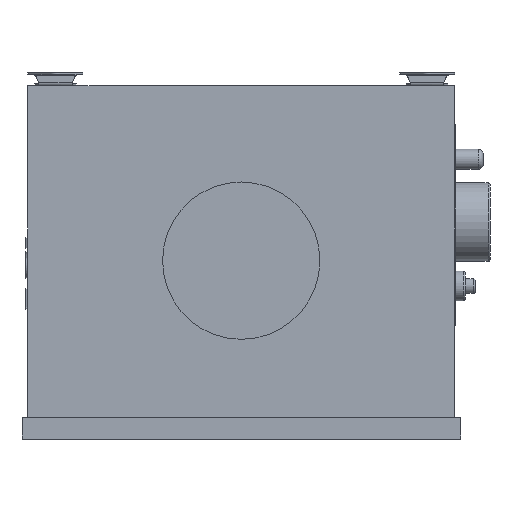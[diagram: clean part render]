
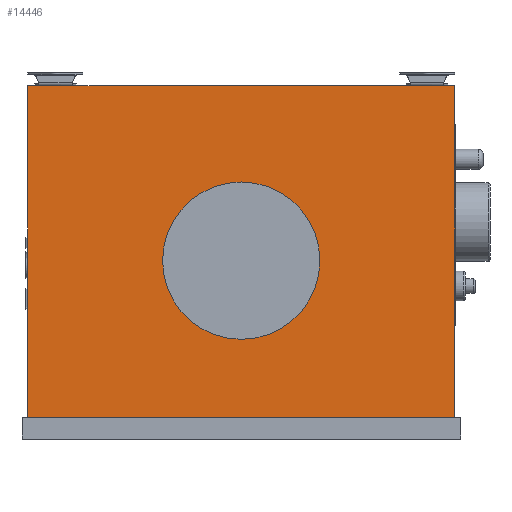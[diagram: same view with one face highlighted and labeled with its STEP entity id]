
A CAD part, front view. The second image highlights one B-rep face of the part: STEP entity #14446.
In plain terms, the highlighted planar face has unit normal (0, -1, 0).
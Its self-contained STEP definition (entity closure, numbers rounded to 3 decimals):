
#174=CIRCLE('',#15014,80.);
#318=FACE_BOUND('',#2265,.T.);
#1445=FACE_OUTER_BOUND('',#2264,.T.);
#2264=EDGE_LOOP('',(#13090,#13091,#13092,#13093));
#2265=EDGE_LOOP('',(#13094));
#3946=LINE('',#25575,#5162);
#4209=LINE('',#30355,#5425);
#4210=LINE('',#30357,#5426);
#4211=LINE('',#30358,#5427);
#5162=VECTOR('',#16430,10.);
#5425=VECTOR('',#17341,10.);
#5426=VECTOR('',#17344,10.);
#5427=VECTOR('',#17345,10.);
#6530=VERTEX_POINT('',#25571);
#6532=VERTEX_POINT('',#25574);
#6820=VERTEX_POINT('',#30326);
#6828=VERTEX_POINT('',#30351);
#6829=VERTEX_POINT('',#30353);
#8474=EDGE_CURVE('',#6532,#6530,#3946,.T.);
#8917=EDGE_CURVE('',#6820,#6820,#174,.T.);
#8930=EDGE_CURVE('',#6828,#6829,#4209,.T.);
#8931=EDGE_CURVE('',#6828,#6530,#4210,.T.);
#8932=EDGE_CURVE('',#6532,#6829,#4211,.T.);
#13090=ORIENTED_EDGE('',*,*,#8931,.F.);
#13091=ORIENTED_EDGE('',*,*,#8930,.T.);
#13092=ORIENTED_EDGE('',*,*,#8932,.F.);
#13093=ORIENTED_EDGE('',*,*,#8474,.T.);
#13094=ORIENTED_EDGE('',*,*,#8917,.T.);
#13462=PLANE('',#15026);
#14446=ADVANCED_FACE('',(#1445,#318),#13462,.T.);
#15014=AXIS2_PLACEMENT_3D('',#30327,#17310,#17311);
#15026=AXIS2_PLACEMENT_3D('',#30356,#17342,#17343);
#16430=DIRECTION('',(0.,0.,-1.));
#17310=DIRECTION('center_axis',(0.,1.,0.));
#17311=DIRECTION('ref_axis',(1.,0.,0.));
#17341=DIRECTION('',(0.,0.,1.));
#17342=DIRECTION('center_axis',(0.,-1.,0.));
#17343=DIRECTION('ref_axis',(1.,0.,0.));
#17344=DIRECTION('',(-1.,0.,0.));
#17345=DIRECTION('',(1.,0.,0.));
#25571=CARTESIAN_POINT('',(-305.802,-31.496,-157.75));
#25574=CARTESIAN_POINT('',(-305.802,-31.496,179.75));
#25575=CARTESIAN_POINT('',(-305.802,-31.496,-157.75));
#30326=CARTESIAN_POINT('',(-168.802,-31.496,1.75));
#30327=CARTESIAN_POINT('Origin',(-88.802,-31.496,1.75));
#30351=CARTESIAN_POINT('',(128.198,-31.496,-157.75));
#30353=CARTESIAN_POINT('',(128.198,-31.496,179.75));
#30355=CARTESIAN_POINT('',(128.198,-31.496,-157.75));
#30356=CARTESIAN_POINT('Origin',(-305.802,-31.496,-157.75));
#30357=CARTESIAN_POINT('',(128.198,-31.496,-157.75));
#30358=CARTESIAN_POINT('',(-305.802,-31.496,179.75));
